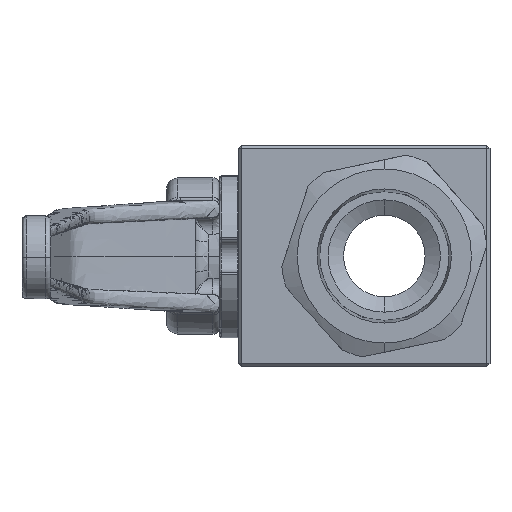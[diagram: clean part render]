
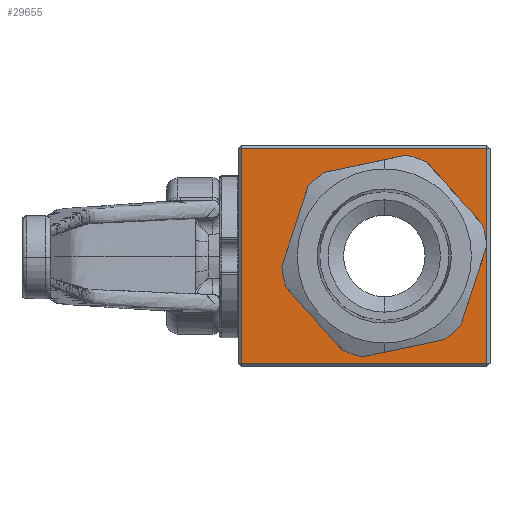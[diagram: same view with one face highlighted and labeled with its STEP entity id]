
A CAD part, left-side view. The second image highlights one B-rep face of the part: STEP entity #29655.
In plain terms, the highlighted planar face has unit normal (-1, 0, 0).
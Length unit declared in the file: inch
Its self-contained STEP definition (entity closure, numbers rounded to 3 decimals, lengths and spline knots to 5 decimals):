
#2407 = VERTEX_POINT ( 'NONE', #4465 ) ;
#2822 = CARTESIAN_POINT ( 'NONE',  ( -0.953, -0.6415, -0.6935 ) ) ;
#3483 = AXIS2_PLACEMENT_3D ( 'NONE', #21510, #3844, #24462 ) ;
#3572 = LINE ( 'NONE', #20009, #33980 ) ;
#3844 = DIRECTION ( 'NONE',  ( -1., 0., 0. ) ) ;
#4154 = EDGE_CURVE ( 'NONE', #2407, #38096, #4462, .T. ) ;
#4462 = LINE ( 'NONE', #22195, #27972 ) ;
#4465 = CARTESIAN_POINT ( 'NONE',  ( -0.953, 0.8935, 0.6735 ) ) ;
#5920 = FACE_OUTER_BOUND ( 'NONE', #18105, .T. ) ;
#6900 = CARTESIAN_POINT ( 'NONE',  ( -0.953, 0.8935, -0.6735 ) ) ;
#6934 = EDGE_CURVE ( 'NONE', #14096, #11124, #29715, .T. ) ;
#7349 = EDGE_CURVE ( 'NONE', #38096, #10304, #16315, .T. ) ;
#8115 = LINE ( 'NONE', #2822, #15960 ) ;
#9436 = CARTESIAN_POINT ( 'NONE',  ( -0.953, 0., 0. ) ) ;
#10304 = VERTEX_POINT ( 'NONE', #20236 ) ;
#10346 = CARTESIAN_POINT ( 'NONE',  ( -0.953, 0.9135, -0.6935 ) ) ;
#11124 = VERTEX_POINT ( 'NONE', #26636 ) ;
#11898 = PLANE ( 'NONE',  #37110 ) ;
#12407 = DIRECTION ( 'NONE',  ( 0., 0., 1. ) ) ;
#12873 = CARTESIAN_POINT ( 'NONE',  ( -0.953, -0.6615, -0.6735 ) ) ;
#14096 = VERTEX_POINT ( 'NONE', #22048 ) ;
#14477 = ORIENTED_EDGE ( 'NONE', *, *, #32086, .T. ) ;
#14844 = DIRECTION ( 'NONE',  ( 0., -1., 0. ) ) ;
#15960 = VECTOR ( 'NONE', #20753, 39.37008 ) ;
#16315 = LINE ( 'NONE', #12873, #30158 ) ;
#16414 = CIRCLE ( 'NONE', #3483, 0.59 ) ;
#17997 = ORIENTED_EDGE ( 'NONE', *, *, #22881, .F. ) ;
#18105 = EDGE_LOOP ( 'NONE', ( #20738, #14477, #29583, #33849 ) ) ;
#20009 = CARTESIAN_POINT ( 'NONE',  ( -0.953, 0.9135, 0.6735 ) ) ;
#20236 = CARTESIAN_POINT ( 'NONE',  ( -0.953, -0.6415, -0.6735 ) ) ;
#20610 = EDGE_LOOP ( 'NONE', ( #17997, #33060 ) ) ;
#20738 = ORIENTED_EDGE ( 'NONE', *, *, #7349, .T. ) ;
#20753 = DIRECTION ( 'NONE',  ( 0., 0., 1. ) ) ;
#21510 = CARTESIAN_POINT ( 'NONE',  ( -0.953, 0., 0. ) ) ;
#21670 = EDGE_CURVE ( 'NONE', #26187, #2407, #3572, .T. ) ;
#22048 = CARTESIAN_POINT ( 'NONE',  ( -0.953, 0., -0.59 ) ) ;
#22125 = AXIS2_PLACEMENT_3D ( 'NONE', #9436, #30043, #12407 ) ;
#22195 = CARTESIAN_POINT ( 'NONE',  ( -0.953, 0.8935, -0.6935 ) ) ;
#22787 = CARTESIAN_POINT ( 'NONE',  ( -0.953, -0.6415, 0.6735 ) ) ;
#22881 = EDGE_CURVE ( 'NONE', #11124, #14096, #16414, .T. ) ;
#22982 = DIRECTION ( 'NONE',  ( 0., 1., 0. ) ) ;
#24462 = DIRECTION ( 'NONE',  ( 0., 0., 1. ) ) ;
#26187 = VERTEX_POINT ( 'NONE', #22787 ) ;
#26636 = CARTESIAN_POINT ( 'NONE',  ( -0.953, 0., 0.59 ) ) ;
#27961 = DIRECTION ( 'NONE',  ( 0., 0., -1. ) ) ;
#27972 = VECTOR ( 'NONE', #27961, 39.37008 ) ;
#29433 = FACE_BOUND ( 'NONE', #20610, .T. ) ;
#29583 = ORIENTED_EDGE ( 'NONE', *, *, #21670, .T. ) ;
#29655 = ADVANCED_FACE ( 'NONE', ( #29433, #5920 ), #11898, .T. ) ;
#29715 = CIRCLE ( 'NONE', #22125, 0.59 ) ;
#30043 = DIRECTION ( 'NONE',  ( -1., 0., 0. ) ) ;
#30158 = VECTOR ( 'NONE', #36400, 39.37008 ) ;
#32086 = EDGE_CURVE ( 'NONE', #10304, #26187, #8115, .T. ) ;
#32519 = DIRECTION ( 'NONE',  ( -1., 0., 0. ) ) ;
#33060 = ORIENTED_EDGE ( 'NONE', *, *, #6934, .F. ) ;
#33849 = ORIENTED_EDGE ( 'NONE', *, *, #4154, .T. ) ;
#33980 = VECTOR ( 'NONE', #22982, 39.37008 ) ;
#36400 = DIRECTION ( 'NONE',  ( 0., -1., 0. ) ) ;
#37110 = AXIS2_PLACEMENT_3D ( 'NONE', #10346, #32519, #14844 ) ;
#38096 = VERTEX_POINT ( 'NONE', #6900 ) ;
